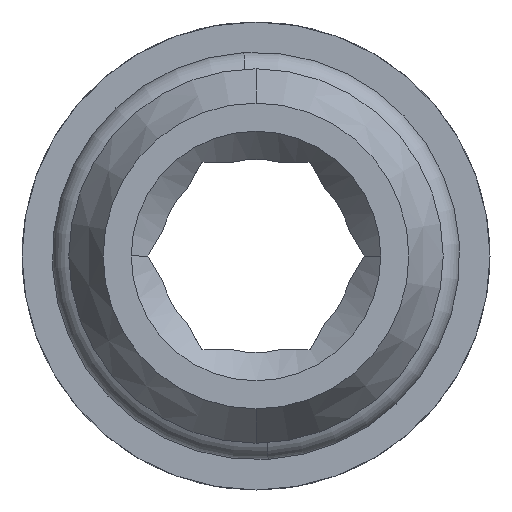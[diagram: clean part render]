
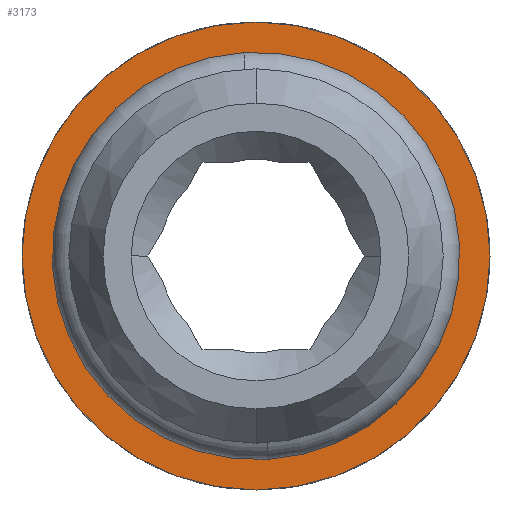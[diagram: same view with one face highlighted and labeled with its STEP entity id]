
A CAD part, front view. The second image highlights one B-rep face of the part: STEP entity #3173.
In plain terms, the highlighted planar face has unit normal (0, -1, 0).
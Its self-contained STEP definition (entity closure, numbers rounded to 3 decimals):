
#22 = DIRECTION ( 'NONE',  ( 0., 0., 1. ) ) ;
#44 = CARTESIAN_POINT ( 'NONE',  ( 0., 7.3, 0. ) ) ;
#85 = EDGE_CURVE ( 'NONE', #986, #1328, #3652, .T. ) ;
#121 = ORIENTED_EDGE ( 'NONE', *, *, #85, .F. ) ;
#148 = VERTEX_POINT ( 'NONE', #479 ) ;
#256 = CARTESIAN_POINT ( 'NONE',  ( 0., 7.3, 7.5 ) ) ;
#275 = AXIS2_PLACEMENT_3D ( 'NONE', #2458, #2149, #22 ) ;
#332 = FACE_OUTER_BOUND ( 'NONE', #2323, .T. ) ;
#371 = AXIS2_PLACEMENT_3D ( 'NONE', #1496, #1208, #1276 ) ;
#402 = CARTESIAN_POINT ( 'NONE',  ( 0., 7.3, 0. ) ) ;
#479 = CARTESIAN_POINT ( 'NONE',  ( 0., 7.3, -7.5 ) ) ;
#675 = DIRECTION ( 'NONE',  ( 0., 1., 0. ) ) ;
#676 = AXIS2_PLACEMENT_3D ( 'NONE', #2951, #675, #1756 ) ;
#733 = AXIS2_PLACEMENT_3D ( 'NONE', #44, #1637, #2818 ) ;
#986 = VERTEX_POINT ( 'NONE', #2060 ) ;
#1102 = CIRCLE ( 'NONE', #2279, 7.5 ) ;
#1208 = DIRECTION ( 'NONE',  ( 0., -1., 0. ) ) ;
#1231 = PLANE ( 'NONE',  #676 ) ;
#1249 = DIRECTION ( 'NONE',  ( 0., 0., -1. ) ) ;
#1276 = DIRECTION ( 'NONE',  ( 0., 0., -1. ) ) ;
#1328 = VERTEX_POINT ( 'NONE', #1584 ) ;
#1332 = EDGE_CURVE ( 'NONE', #148, #1752, #1102, .T. ) ;
#1374 = EDGE_CURVE ( 'NONE', #1328, #986, #3131, .T. ) ;
#1454 = DIRECTION ( 'NONE',  ( 0., -1., 0. ) ) ;
#1496 = CARTESIAN_POINT ( 'NONE',  ( 0., 7.3, 0. ) ) ;
#1504 = ORIENTED_EDGE ( 'NONE', *, *, #3202, .T. ) ;
#1584 = CARTESIAN_POINT ( 'NONE',  ( 0.388, 7.3, -6.519 ) ) ;
#1637 = DIRECTION ( 'NONE',  ( 0., -1., 0. ) ) ;
#1752 = VERTEX_POINT ( 'NONE', #256 ) ;
#1756 = DIRECTION ( 'NONE',  ( 0., 0., 1. ) ) ;
#1775 = ORIENTED_EDGE ( 'NONE', *, *, #1332, .T. ) ;
#1799 = FACE_BOUND ( 'NONE', #2330, .T. ) ;
#2060 = CARTESIAN_POINT ( 'NONE',  ( -0.388, 7.3, 6.519 ) ) ;
#2149 = DIRECTION ( 'NONE',  ( 0., -1., 0. ) ) ;
#2279 = AXIS2_PLACEMENT_3D ( 'NONE', #402, #1454, #1249 ) ;
#2323 = EDGE_LOOP ( 'NONE', ( #1775, #1504 ) ) ;
#2330 = EDGE_LOOP ( 'NONE', ( #2631, #121 ) ) ;
#2458 = CARTESIAN_POINT ( 'NONE',  ( 0., 7.3, 0. ) ) ;
#2631 = ORIENTED_EDGE ( 'NONE', *, *, #1374, .F. ) ;
#2818 = DIRECTION ( 'NONE',  ( 0., 0., 1. ) ) ;
#2951 = CARTESIAN_POINT ( 'NONE',  ( 7.264, 7.3, 0. ) ) ;
#3131 = CIRCLE ( 'NONE', #275, 6.53 ) ;
#3173 = ADVANCED_FACE ( 'NONE', ( #332, #1799 ), #1231, .F. ) ;
#3202 = EDGE_CURVE ( 'NONE', #1752, #148, #3600, .T. ) ;
#3600 = CIRCLE ( 'NONE', #371, 7.5 ) ;
#3652 = CIRCLE ( 'NONE', #733, 6.53 ) ;
